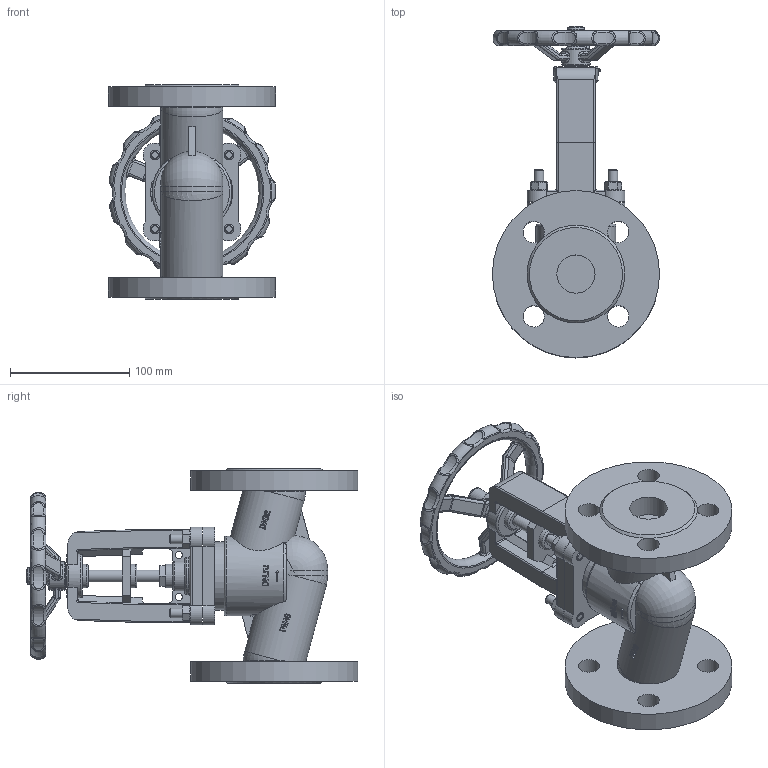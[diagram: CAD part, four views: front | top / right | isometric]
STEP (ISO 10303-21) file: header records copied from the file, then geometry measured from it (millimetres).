
FILE_DESCRIPTION(('STEP AP242'), '1');
FILE_NAME('VSO2130M-F-S 孰囡囗 玎镱痦 DN.ru 捏32 畜40', '2026-04-27T22:48:44', ('DN.ru'), (''), 'C3D Converter', 'C3D Toolkit', '');
FILE_SCHEMA(('AP242_MANAGED_MODEL_BASED_3D_ENGINEERING_MIM_LF { 1 0 10303 442 1 1 4 }'));
Length unit declared in the file: millimetre
Products named in the file (1): VSO2130M-F-S
Bounding box: 140.06 x 278 x 180 mm (x, y, z)
Volume: 1270920.9 mm3; surface area: 196894.9 mm2
Topology: 1 solids, 1 shells, 971 faces, 2490 edges, 1545 vertices
Faces by surface type: plane 298, extrusion 220, cylinder 189, torus 122, sphere 65, bspline 58, cone 19
Full cylindrical faces by diameter (mm): 0.5 x1, 1 x1, 2 x2, 6 x2, 8 x12, 10 x2, 14.25 x1, 15 x1, 16 x1, 18 x8, 20 x3, 23.75 x1, 32 x2, 52 x2, 57 x1, 67 x1, 140 x2
Entity records: 68290 total; most frequent: CARTESIAN_POINT 39185, ORIENTED_EDGE 4730, DIRECTION 3677, EDGE_CURVE 2365, VERTEX_POINT 1527, AXIS2_PLACEMENT_3D 1331, EDGE_LOOP 1136, FACE_BOUND 1021
